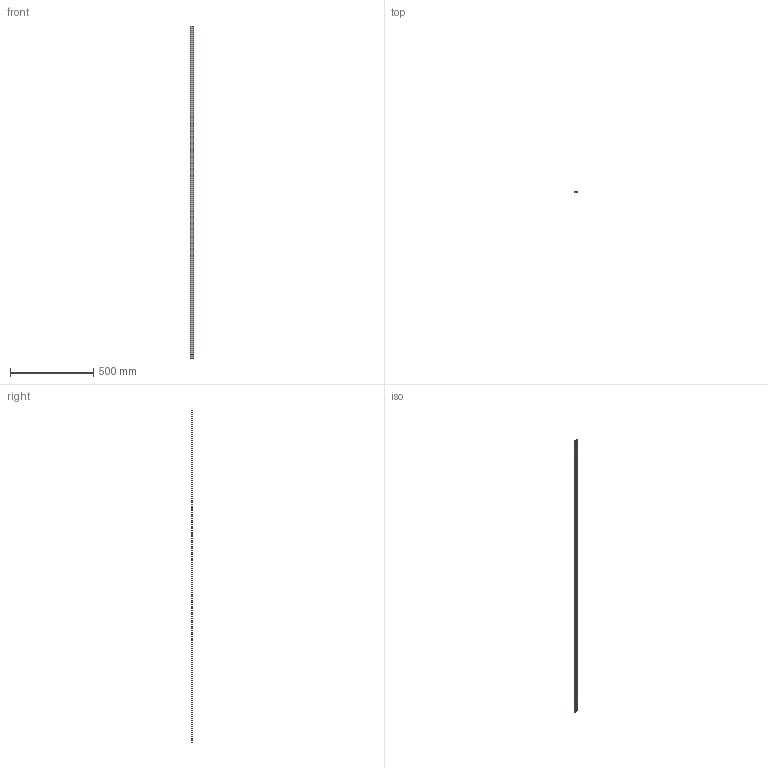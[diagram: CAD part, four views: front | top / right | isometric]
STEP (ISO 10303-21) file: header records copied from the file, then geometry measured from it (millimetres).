
FILE_DESCRIPTION (( 'STEP AP214' ), '1' );
FILE_NAME ('Profile-TRS200A00.STEP', '2015-11-27T10:41:32', ( '' ), ( '' ), 'SwSTEP 2.0', 'SolidWorks 2013', '' );
FILE_SCHEMA (( 'AUTOMOTIVE_DESIGN' ));
Length unit declared in the file: millimetre
Products named in the file (1): Profile-TRS200A00
Bounding box: 20 x 4 x 2000 mm (x, y, z)
Volume: 115953.4 mm3; surface area: 94645 mm2
Topology: 1 solids, 1 shells, 43 faces, 120 edges, 80 vertices
Faces by surface type: plane 25, cylinder 18
Entity records: 1428 total; most frequent: DIRECTION 244, CARTESIAN_POINT 244, ORIENTED_EDGE 240, EDGE_CURVE 120, VECTOR 84, LINE 84, AXIS2_PLACEMENT_3D 80, VERTEX_POINT 80
